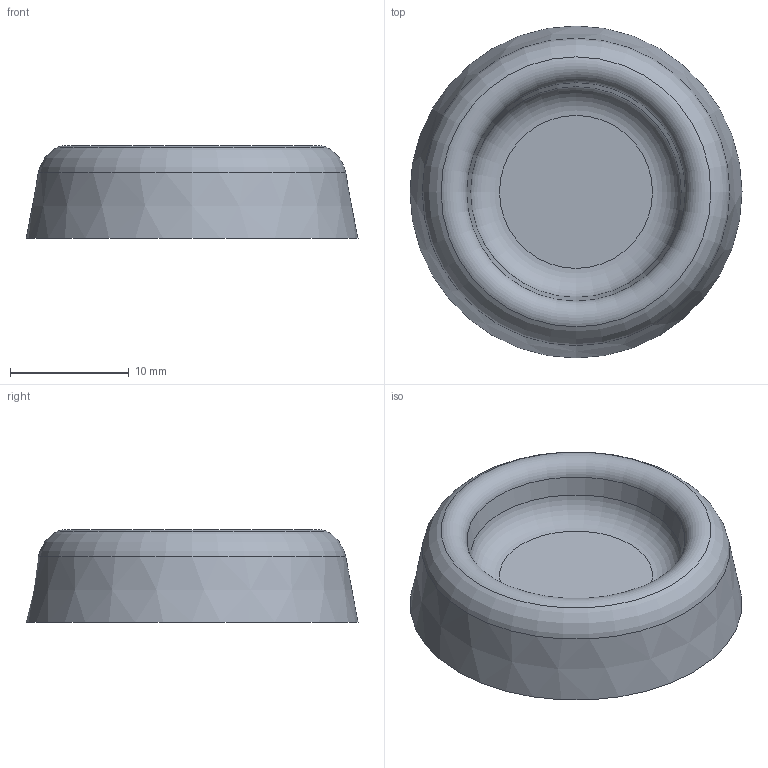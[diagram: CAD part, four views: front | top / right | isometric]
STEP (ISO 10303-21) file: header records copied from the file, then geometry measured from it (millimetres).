
FILE_DESCRIPTION(/* description */ ('','CAx-IF Rec.Pracs.---Representation and Presentation of Product Manufacturing Information (PMI)---4.0---2014-10-13'),/* implementation_level */ '2;1');
FILE_NAME(/* name */ '01_Napf v15.step',/* time_stamp */ '2024-12-13T22:22:21+01:00',/* author */ (''),/* organization */ (''),/* preprocessor_version */ 'ST-DEVELOPER v20',/* originating_system */ 'Autodesk Translation Framework v13.20.0.188',/* authorisation */ '');
FILE_SCHEMA (('AP242_MANAGED_MODEL_BASED_3D_ENGINEERING_MIM_LF { 1 0 10303 442 1 1 4 }'));
Length unit declared in the file: millimetre
Products named in the file (1): 01_Napf
Bounding box: 28 x 28 x 7.83 mm (x, y, z)
Volume: 3061.2 mm3; surface area: 1877.9 mm2
Topology: 1 solids, 1 shells, 7 faces, 14 edges, 9 vertices
Faces by surface type: torus 3, cone 2, plane 2
Entity records: 232 total; most frequent: DIRECTION 42, CARTESIAN_POINT 31, ORIENTED_EDGE 28, AXIS2_PLACEMENT_3D 20, EDGE_CURVE 14, CIRCLE 12, VERTEX_POINT 9, FACE_OUTER_BOUND 7
